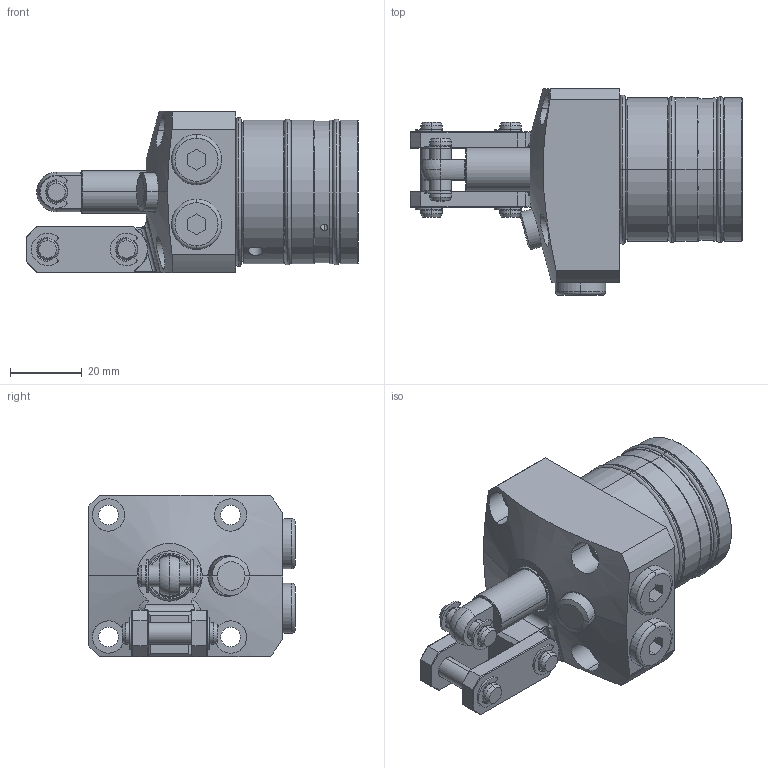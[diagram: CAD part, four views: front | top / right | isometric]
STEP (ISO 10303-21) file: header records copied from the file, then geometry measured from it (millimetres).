
FILE_DESCRIPTION(/* description */ (''),/* implementation_level */ '2;1');
FILE_NAME(/* name */ 'KTPW40-LE.stp',/* time_stamp */ '2022-11-19T15:07:03+08:00',/* author */ (''),/* organization */ (''),/* preprocessor_version */ 'ST-DEVELOPER v16.7',/* originating_system */ 'SIEMENS PLM Software NX 12.0',/* authorisation */ '');
FILE_SCHEMA (('AP203_CONFIGURATION_CONTROLLED_3D_DESIGN_OF_MECHANICAL_PARTS_AND_ASSEMBLIES_MIM_LF { 1 0 10303 403 2 1 2}'));
Length unit declared in the file: millimetre
Products named in the file (11): KTPW40-LE-06; KTPW40-LE-010; KTPW40-LE-03; KTPW40-LE-01; KTPW40-LE-05; KTPW40-LE-08; KTPW40-LE-09; KTPW40-LE-02; KTPW40-LE-04; KTPW40-LE-07; LKW0401-CLE_step
Assembly tree (19 placements, depth 2):
  LKW0401-CLE_step
    KTPW40-LE-07  x6
    KTPW40-LE-04  x2
    KTPW40-LE-02
    KTPW40-LE-09  x2
    KTPW40-LE-08
    KTPW40-LE-05  x2
    KTPW40-LE-01
    KTPW40-LE-03
    KTPW40-LE-010  x2
    KTPW40-LE-06
Bounding box: 92.5 x 57.5 x 45 mm (x, y, z)
Volume: 100818.7 mm3; surface area: 30155.5 mm2
Topology: 22 solids, 26 shells, 706 faces, 1624 edges, 1001 vertices
Faces by surface type: cylinder 279, plane 205, torus 122, cone 88, bspline 10, sphere 2
Full cylindrical faces by diameter (mm): 40 x1
Entity records: 14329 total; most frequent: CARTESIAN_POINT 3176, DIRECTION 2233, ORIENTED_EDGE 1842, AXIS2_PLACEMENT_3D 947, EDGE_CURVE 921, VERTEX_POINT 562, CIRCLE 511, EDGE_LOOP 485
